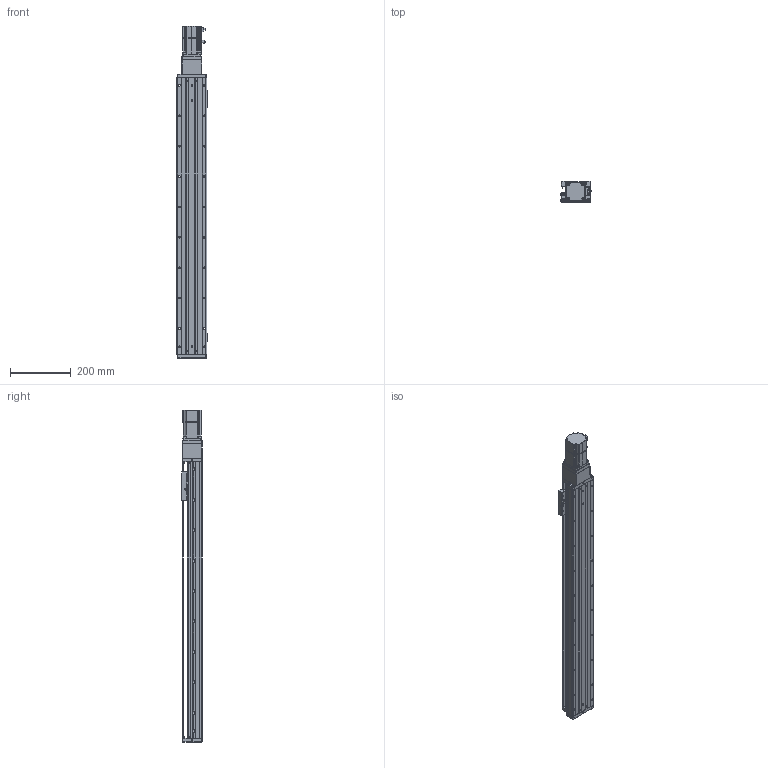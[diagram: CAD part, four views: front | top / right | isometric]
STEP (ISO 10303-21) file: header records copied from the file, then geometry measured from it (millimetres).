
FILE_DESCRIPTION (( 'STEP AP203' ), '1' );
FILE_NAME ('KTHA100-750-BC-M20-C4L.step', '2022-04-26T01:45:34', ( '微软用户' ), ( '微软中国' ), 'SwSTEP 2.0', 'SolidWorks 2020', '' );
FILE_SCHEMA (( 'CONFIG_CONTROL_DESIGN' ));
Length unit declared in the file: millimetre
Products named in the file (18): KTHA100-002; GBT77-2000 M3×3; CTHA86-027; KTHA100-004; GBT 70.1-M3℅6; CTHA86-006-1_CTHA86-006-2; KTHA100-005; GBT70.1 M5℅16; KTHA100-750-BC-M20-C4L; GB¨uT 70.2-M3¡Á5_M3¡Á6; CTHA60-016; EE_SX911P_R; GBT 70.3-M3℅6; CTHA60-017; _X2_4E0983F1_X0_200W_1; KTHA100-001_910; CTHA60-021; CTHA86-013
Assembly tree (56 placements, depth 2):
  KTHA100-750-BC-M20-C4L
    KTHA100-001_910
    KTHA100-002
    KTHA100-004
    KTHA100-005
    GB¨uT 70.2-M3¡Á5_M3¡Á6  x6
    EE_SX911P_R  x3
    CTHA60-017  x3
    CTHA60-021  x2
    GBT77-2000 M3×3  x6
    GBT 70.1-M3℅6  x6
    GBT70.1 M5℅16  x14
    CTHA60-016  x2
    GBT 70.3-M3℅6  x6
    _X2_4E0983F1_X0_200W_1
    CTHA86-013
    CTHA86-027
    CTHA86-006-1_CTHA86-006-2
Bounding box: 98.82 x 68 x 1092.5 mm (x, y, z)
Volume: 4058935.6 mm3; surface area: 674842.8 mm2
Topology: 59 solids, 59 shells, 2447 faces, 5856 edges, 3616 vertices
Faces by surface type: plane 1251, cylinder 673, cone 334, torus 104, bspline 69, sphere 16
Entity records: 42890 total; most frequent: CARTESIAN_POINT 8199, DIRECTION 6769, ORIENTED_EDGE 6480, EDGE_CURVE 3240, AXIS2_PLACEMENT_3D 2358, VECTOR 2053, LINE 2053, VERTEX_POINT 2034
